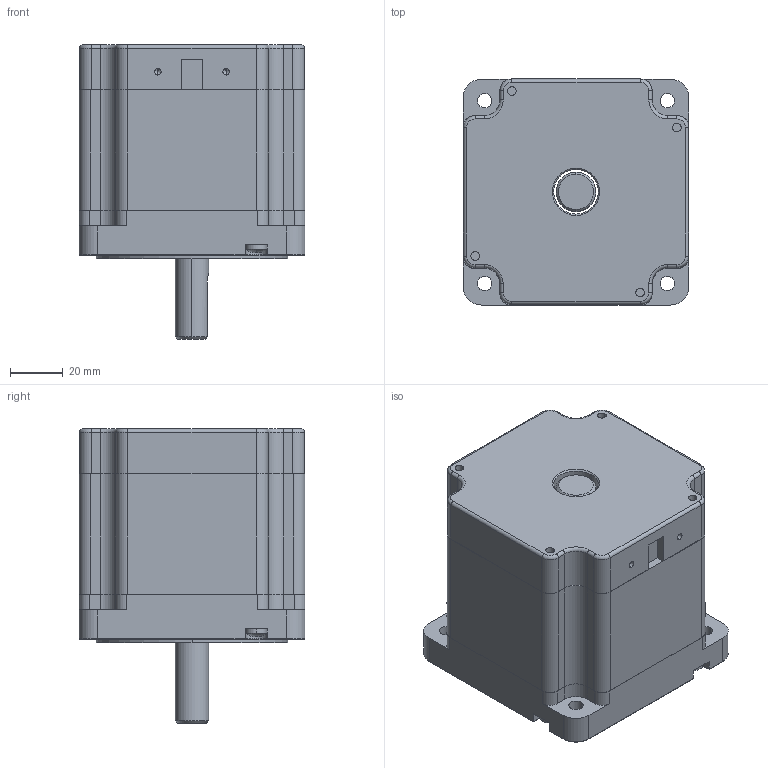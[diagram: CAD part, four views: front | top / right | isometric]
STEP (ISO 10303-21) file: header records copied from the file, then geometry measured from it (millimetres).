
FILE_DESCRIPTION (( 'STEP AP203' ), '1' );
FILE_NAME ('YK86HB80-4232K-01.STEP', '2020-07-29T09:18:02', ( '' ), ( '' ), 'SwSTEP 2.0', 'SolidWorks 2016', '' );
FILE_SCHEMA (( 'CONFIG_CONTROL_DESIGN' ));
Length unit declared in the file: millimetre
Products named in the file (6): YK86HB80-4232K-01; YK86綴裔; YK86粣郋; cross recessed pan head screws gb_GB_CROSS_SCREWS_TYPE1 M4X40-40  H type-N; YK86隅赽; YK86ヶ裔
Assembly tree (8 placements, depth 2):
  YK86HB80-4232K-01
    YK86隅赽
    YK86ヶ裔
    YK86綴裔
    YK86粣郋
    cross recessed pan head screws gb_GB_CROSS_SCREWS_TYPE1 M4X40-40  H type-N  x4
Bounding box: 86 x 86 x 112 mm (x, y, z)
Volume: 413543 mm3; surface area: 84802.1 mm2
Topology: 8 solids, 8 shells, 350 faces, 898 edges, 573 vertices
Faces by surface type: cylinder 160, plane 134, cone 27, torus 21, sphere 8
Entity records: 9162 total; most frequent: DIRECTION 1572, CARTESIAN_POINT 1502, ORIENTED_EDGE 1392, EDGE_CURVE 696, AXIS2_PLACEMENT_3D 605, VERTEX_POINT 441, VECTOR 362, LINE 362
